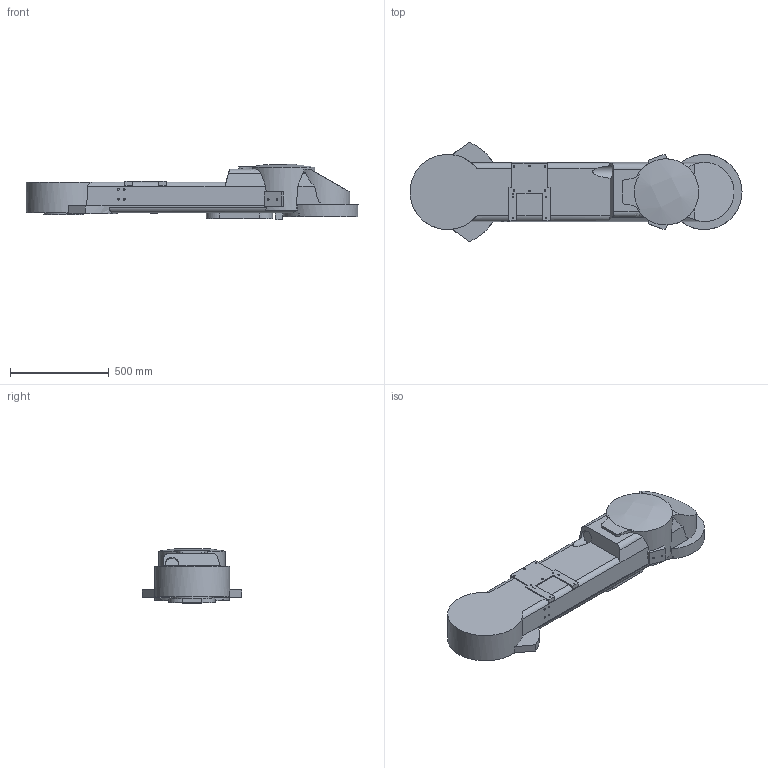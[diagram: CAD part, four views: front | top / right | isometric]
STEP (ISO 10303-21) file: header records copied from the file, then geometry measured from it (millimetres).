
FILE_DESCRIPTION (( 'STEP AP214' ), '1' );
FILE_NAME ('IRB5500-22_rev00_LINK2_CAD.STEP', '2018-07-20T05:29:51', ( '' ), ( '' ), 'SwSTEP 2.0', 'SolidWorks 2016', '' );
FILE_SCHEMA (( 'AUTOMOTIVE_DESIGN' ));
Length unit declared in the file: millimetre
Products named in the file (1): IRB5500-22_rev00_LINK2_CAD
Bounding box: 1680.31 x 504 x 278.38 mm (x, y, z)
Volume: 92191458.5 mm3; surface area: 1875108.3 mm2
Topology: 1 solids, 3 shells, 223 faces, 470 edges, 312 vertices
Faces by surface type: plane 132, cylinder 86, bspline 5
Full cylindrical faces by diameter (mm): 6 x5, 8 x18, 8.5 x10, 10.2 x2, 12 x1, 16 x6, 16.5 x12, 20 x1, 35 x1, 68 x1, 180.105 x1, 200 x1, 360 x1, 380 x1
Entity records: 6299 total; most frequent: CARTESIAN_POINT 1686, DIRECTION 969, ORIENTED_EDGE 812, EDGE_CURVE 406, AXIS2_PLACEMENT_3D 399, EDGE_LOOP 343, VERTEX_POINT 309, FACE_OUTER_BOUND 284
